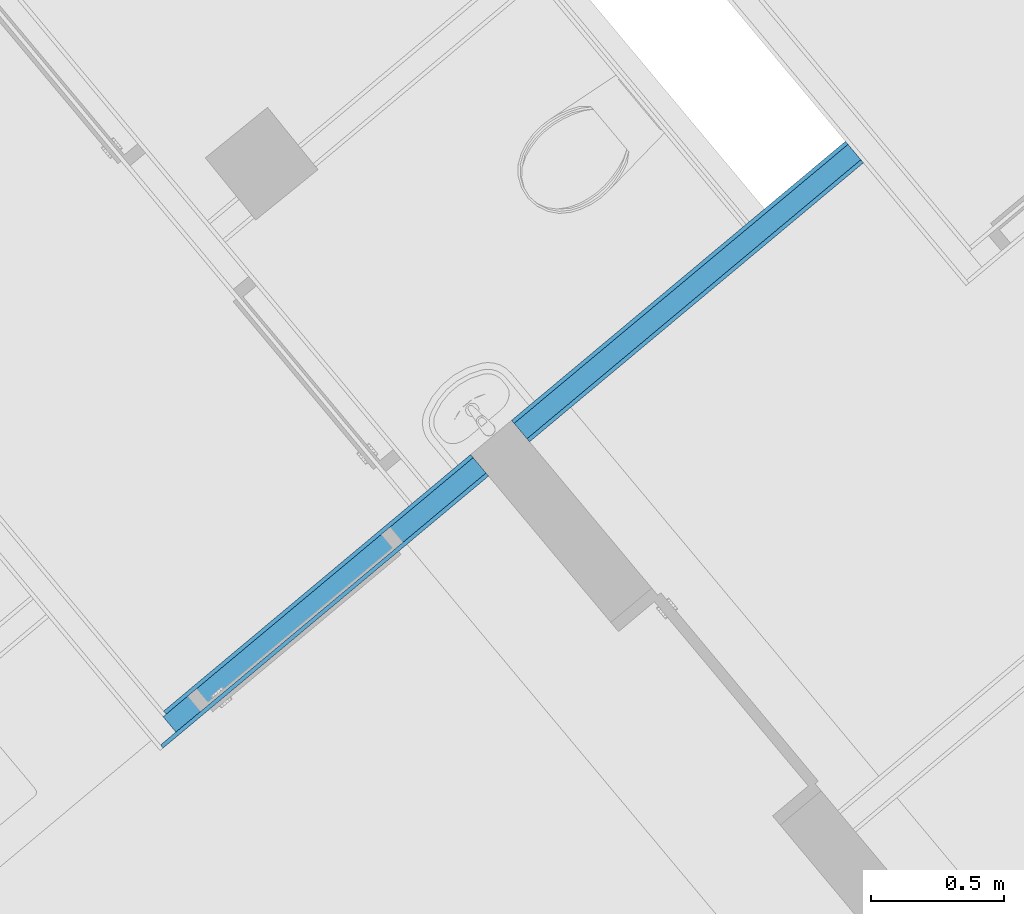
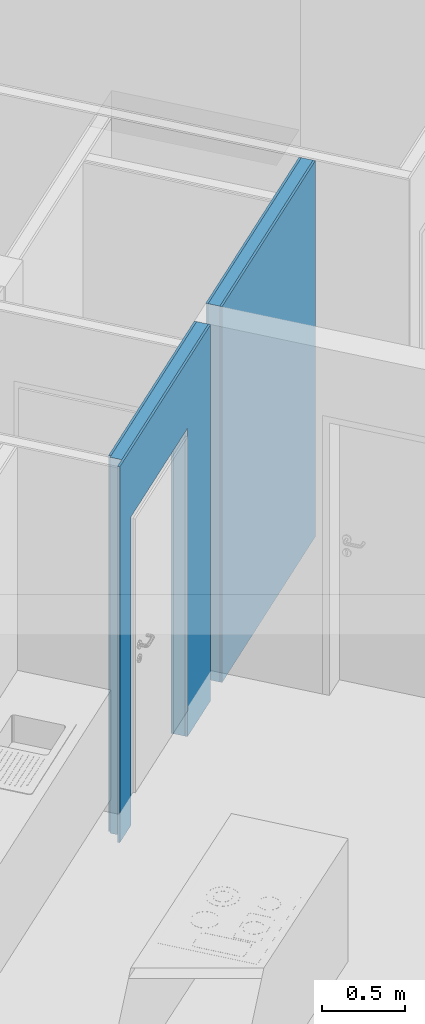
# One storey, part 10 of 67: 3 building element parts, 1 opening, 1 element without a shape of its own.
"""IFC4 building model written with IfcOpenShell, lengths in metres."""

from ifc_helpers import new_model, entity, si_unit, converted_unit, derived_unit, direction, frame, origin_with_axes, place, context, subcontext, project, spatial, polygons, material, type_object, element, aggregate, save


model = new_model("IFC4")

# Units and contexts
model_context = context("Model", 3, precision=1e-05, world=origin_with_axes(), true_north=direction((0.0, 1.0)))
body_context = subcontext(model_context, "Body", "Model", "MODEL_VIEW")
ifc_project = project(units=[si_unit("LENGTHUNIT", "METRE"), si_unit("AREAUNIT", "SQUARE_METRE"), si_unit("VOLUMEUNIT", "CUBIC_METRE"), converted_unit("PLANEANGLEUNIT", "DEGREE", entity("IfcPlaneAngleMeasure", 0.0174532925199), si_unit("PLANEANGLEUNIT", "RADIAN"), dimensions=[0, 0, 0, 0, 0, 0, 0]), converted_unit("TIMEUNIT", "Year", entity("IfcTimeMeasure", 31556926.0), si_unit("TIMEUNIT", "SECOND"), dimensions=[0, 0, 1, 0, 0, 0, 0]), si_unit("MASSUNIT", "GRAM", prefix="KILO"), si_unit("THERMODYNAMICTEMPERATUREUNIT", "DEGREE_CELSIUS"), si_unit("LUMINOUSINTENSITYUNIT", "LUMEN"), si_unit("ENERGYUNIT", "JOULE", prefix="MEGA"), derived_unit("THERMALCONDUCTANCEUNIT", [(si_unit("POWERUNIT", "WATT"), 1), (si_unit("LENGTHUNIT", "METRE"), -1), (si_unit("THERMODYNAMICTEMPERATUREUNIT", "KELVIN"), -1)]), derived_unit("SPECIFICHEATCAPACITYUNIT", [(si_unit("ENERGYUNIT", "JOULE"), 1), (si_unit("MASSUNIT", "GRAM", prefix="KILO"), -1), (si_unit("THERMODYNAMICTEMPERATUREUNIT", "KELVIN"), -1)]), derived_unit("MASSDENSITYUNIT", [(si_unit("MASSUNIT", "GRAM", prefix="KILO"), 1), (si_unit("VOLUMEUNIT", "CUBIC_METRE"), -1)])], contexts=[model_context])

# Site, building, storey
site_placement = place(None, frame((-0.00153261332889, -0.00661245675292, 0.0), z_axis=(0.0, 0.0, 1.0), x_axis=(1.0, 0.0, 0.0)))
site = spatial("IfcSite", under=ifc_project, at=site_placement, Name="Site", CompositionType="ELEMENT")
building_placement = place(site_placement, origin_with_axes())
building = spatial("IfcBuilding", under=site, at=building_placement, Name="Building", CompositionType="ELEMENT")
storey_placement = place(building_placement, frame((0.0, 0.0, -0.22), z_axis=(0.0, 0.0, 1.0), x_axis=(1.0, 0.0, 0.0)))
storey = spatial("IfcBuildingStorey", under=building, at=storey_placement, Name="EG", CompositionType="ELEMENT", Elevation=-0.22)

# Wall, opening, building element parts
wall_type = type_object("IfcWallType", Name="IW LB 01 Leichtbautrennwand einfach 10,5 cm 105", PredefinedType="NOTDEFINED")
wall_placement = place(storey_placement, frame((-2.08312731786, 16.7658353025, 0.0), z_axis=(0.0, 0.0, 1.0), x_axis=(0.767365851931, 0.641209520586, 0.0)))
wall = element("IfcWall", 1, at=wall_placement, inside=storey, type_object=wall_type, Name="Wand-012", PredefinedType="NOTDEFINED")
opening_placement = place(wall_placement, frame((0.704535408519, 0.0, 0.22), z_axis=(0.0, 0.0, 1.0), x_axis=(1.0, 0.0, 0.0)))
element("IfcOpeningElement", 2, at=opening_placement, cuts=wall, Name="Tür-017", context=body_context, identifier="Reference", shape_type="Tessellation", body=[
    polygons([(0.495, 1.6911768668, 2.045), (0.495, 1.6911768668, -0.22), (-0.495, 1.6911768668, -0.22), (-0.495, 1.6911768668, 2.045), (0.495, -1.7961768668, 2.045), (0.495, -1.7961768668, -0.22), (-0.495, -1.7961768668, -0.22), (-0.495, -1.7961768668, 2.045)], [[[1, 2, 3, 4]], [[5, 6, 2, 1]], [[6, 7, 3, 2]], [[7, 8, 4, 3]], [[8, 5, 1, 4]], [[7, 6, 5, 8]]], closed=True),
])
ifc_material_1 = material(Name="Gipskarton")
building_element_part_1_placement = place(wall_placement, origin_with_axes())
building_element_part_1 = element("IfcBuildingElementPart", 3, at=building_element_part_1_placement, material=ifc_material_1, Name="Gipskarton", PredefinedType="NOTDEFINED", context=body_context, shape_type="Tessellation", body=[
    polygons([(0.209535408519, -0.015, 0.22), (0.209535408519, -0.015, 2.265), (1.19953540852, -0.015, 2.265), (1.19953540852, -0.015, 0.22), (1.19953540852, -0.015, 0.0), (1.60433833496, -0.015, 0.0), (1.60433833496, -0.015, 2.76), (0.105, -0.015, 2.76), (0.105, -0.015, 0.0), (0.209535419, -0.015, 0.0), (0.209535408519, 1.49510857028e-08, 0.22), (0.209535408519, 5.30051380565e-09, 2.265), (1.19953540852, 5.30051380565e-09, 2.265), (1.19953540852, 5.30051380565e-09, 0.22), (1.19953540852, 5.30051380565e-09, 0.0), (1.60433833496, 0.0, 0.0), (1.60433833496, 0.0, 2.76), (0.105, 0.0, 2.76), (0.105, 0.0, 0.0), (0.209535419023, 1.49510857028e-08, 0.0)], [[[1, 2, 3, 4, 5, 6, 7, 8, 9, 10]], [[2, 1, 11, 12]], [[3, 2, 12, 13]], [[4, 3, 13, 14]], [[4, 14, 15, 5]], [[15, 16, 6, 5]], [[7, 6, 16, 17]], [[7, 17, 18, 8]], [[18, 19, 9, 8]], [[10, 9, 19, 20]], [[11, 1, 10, 20]], [[12, 11, 20, 19, 18, 17, 16, 15, 14, 13]]], closed=True),
    polygons([(3.43502357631, 0.0, 2.76), (3.43502357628, -0.015, 2.76), (3.43502357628, -0.015, 0.0), (3.43502357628, 0.0, 0.0), (3.03975605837, 0.0, 2.76), (1.80433833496, 0.0, 2.76), (1.80433833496, -0.015, 2.76), (1.80433833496, -0.015, 0.0), (1.80433833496, 0.0, 0.0)], [[[1, 2, 3, 4]], [[2, 1, 5, 6, 7]], [[2, 7, 8, 3]], [[3, 8, 9, 4]], [[5, 1, 4, 9, 6]], [[7, 6, 9, 8]]], closed=True),
])
ifc_material_2 = material(Name="Mineralwolle weich")
building_element_part_2_placement = place(wall_placement, origin_with_axes())
building_element_part_2 = element("IfcBuildingElementPart", 4, at=building_element_part_2_placement, material=ifc_material_2, Name="Mineralwolle weich", PredefinedType="NOTDEFINED", context=body_context, shape_type="Tessellation", body=[
    polygons([(0.209535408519, -0.09, 0.22), (0.209535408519, -0.09, 2.265), (1.19953540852, -0.09, 2.265), (1.19953540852, -0.09, 0.22), (1.19953540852, -0.09, 0.0), (1.60433833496, -0.09, 0.0), (1.60433833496, -0.09, 2.76), (0.089999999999, -0.09, 2.76), (0.089999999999, -0.09, 0.0), (0.209535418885, -0.09, 0.0), (0.209535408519, -0.015, 0.22), (0.209535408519, -0.015, 2.265), (1.19953540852, -0.015, 2.265), (1.19953540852, -0.015, 0.22), (1.19953540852, -0.015, 0.0), (1.60433833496, -0.015, 0.0), (1.60433833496, -0.015, 2.76), (0.0899999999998, -0.015, 2.76), (0.0899999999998, -0.015, 0.0), (0.209535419, -0.015, 0.0)], [[[1, 2, 3, 4, 5, 6, 7, 8, 9, 10]], [[2, 1, 11, 12]], [[3, 2, 12, 13]], [[4, 3, 13, 14]], [[4, 14, 15, 5]], [[15, 16, 6, 5]], [[7, 6, 16, 17]], [[7, 17, 18, 8]], [[18, 19, 9, 8]], [[10, 9, 19, 20]], [[11, 1, 10, 20]], [[12, 11, 20, 19, 18, 17, 16, 15, 14, 13]]], closed=True),
    polygons([(3.43502357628, -0.015, 2.76), (3.43502357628, -0.09, 2.76), (3.43502357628, -0.09, 0.0), (3.43502357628, -0.015, 0.0), (1.80433833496, -0.015, 2.76), (1.80433833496, -0.09, 2.76), (1.80433833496, -0.09, 0.0), (1.80433833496, -0.015, 0.0)], [[[1, 2, 3, 4]], [[2, 1, 5, 6]], [[2, 6, 7, 3]], [[3, 7, 8, 4]], [[1, 4, 8, 5]], [[6, 5, 8, 7]]], closed=True),
])
building_element_part_3_placement = place(wall_placement, origin_with_axes())
building_element_part_3 = element("IfcBuildingElementPart", 5, at=building_element_part_3_placement, material=ifc_material_1, Name="Gipskarton", PredefinedType="NOTDEFINED", context=body_context, shape_type="Tessellation", body=[
    polygons([(0.209535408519, -0.105, 0.22), (0.209535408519, -0.105, 2.265), (1.19953540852, -0.105, 2.265), (1.19953540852, -0.105, 0.22), (1.19953540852, -0.105, 0.0), (1.60433833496, -0.105, 0.0), (1.60433833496, -0.105, 2.76), (0.0149999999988, -0.105, 2.76), (0.0149999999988, -0.105, 0.0), (0.209535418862, -0.105, 0.0), (0.209535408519, -0.09, 0.22), (0.209535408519, -0.09, 2.265), (1.19953540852, -0.09, 2.265), (1.19953540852, -0.09, 0.22), (1.19953540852, -0.09, 0.0), (1.60433833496, -0.09, 0.0), (1.60433833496, -0.09, 2.76), (0.014999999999, -0.09, 2.76), (0.014999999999, -0.09, 0.0), (0.209535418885, -0.09, 0.0)], [[[1, 2, 3, 4, 5, 6, 7, 8, 9, 10]], [[2, 1, 11, 12]], [[3, 2, 12, 13]], [[4, 3, 13, 14]], [[4, 14, 15, 5]], [[15, 16, 6, 5]], [[7, 6, 16, 17]], [[7, 17, 18, 8]], [[18, 19, 9, 8]], [[10, 9, 19, 20]], [[11, 1, 10, 20]], [[12, 11, 20, 19, 18, 17, 16, 15, 14, 13]]], closed=True),
    polygons([(3.43502357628, -0.09, 2.76), (3.43502357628, -0.105, 2.76), (3.43502357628, -0.105, 0.0), (3.43502357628, -0.09, 0.0), (1.80433833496, -0.09, 2.76), (1.80433833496, -0.105, 2.76), (1.80433833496, -0.105, 0.0), (1.80433833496, -0.09, 0.0)], [[[1, 2, 3, 4]], [[2, 1, 5, 6]], [[2, 6, 7, 3]], [[3, 7, 8, 4]], [[1, 4, 8, 5]], [[6, 5, 8, 7]]], closed=True),
])
aggregate(wall, [building_element_part_1, building_element_part_2, building_element_part_3])

save(model, "model.ifc")
